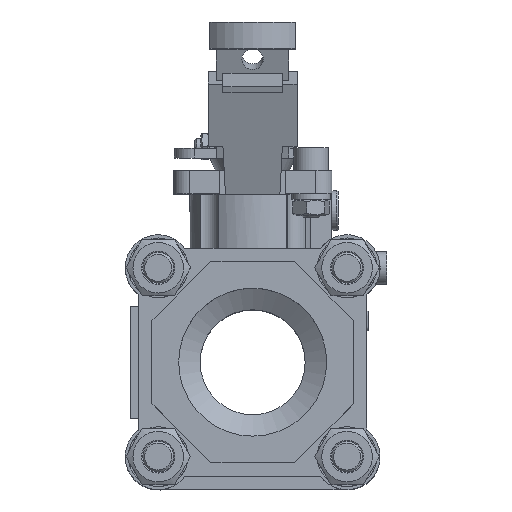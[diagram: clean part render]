
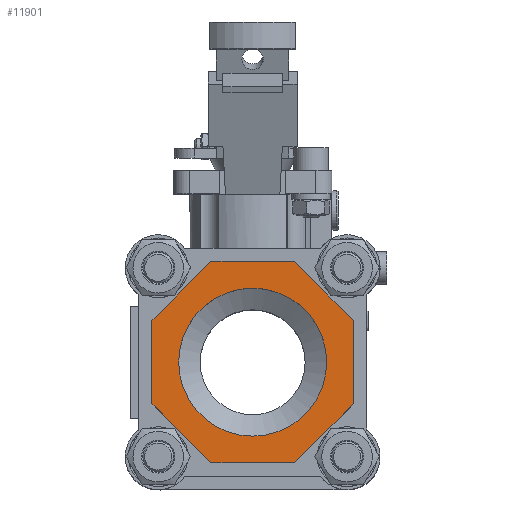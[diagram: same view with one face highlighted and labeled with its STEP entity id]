
A CAD part, top view. The second image highlights one B-rep face of the part: STEP entity #11901.
In plain terms, the highlighted planar face has unit normal (0, 0, 1).
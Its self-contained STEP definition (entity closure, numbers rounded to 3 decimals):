
#367=FACE_BOUND('',#2045,.T.);
#596=PLANE('',#12754);
#1339=FACE_OUTER_BOUND('',#2044,.T.);
#2044=EDGE_LOOP('',(#9370,#9371,#9372,#9373,#9374,#9375,#9376,#9377));
#2045=EDGE_LOOP('',(#9378,#9379));
#2703=CIRCLE('',#12755,22.423);
#2704=CIRCLE('',#12756,22.423);
#3490=LINE('',#18953,#4533);
#3492=LINE('',#18957,#4535);
#3494=LINE('',#18961,#4537);
#3496=LINE('',#18965,#4539);
#3499=LINE('',#18970,#4542);
#3501=LINE('',#18974,#4544);
#3503=LINE('',#18978,#4546);
#3504=LINE('',#18980,#4547);
#4533=VECTOR('',#14785,10.);
#4535=VECTOR('',#14789,10.);
#4537=VECTOR('',#14793,10.);
#4539=VECTOR('',#14797,10.);
#4542=VECTOR('',#14802,10.);
#4544=VECTOR('',#14806,10.);
#4546=VECTOR('',#14810,10.);
#4547=VECTOR('',#14813,10.);
#5625=VERTEX_POINT('',#18950);
#5626=VERTEX_POINT('',#18952);
#5627=VERTEX_POINT('',#18956);
#5628=VERTEX_POINT('',#18960);
#5629=VERTEX_POINT('',#18964);
#5630=VERTEX_POINT('',#18968);
#5631=VERTEX_POINT('',#18972);
#5632=VERTEX_POINT('',#18976);
#5633=VERTEX_POINT('',#18982);
#5634=VERTEX_POINT('',#18983);
#6988=EDGE_CURVE('',#5626,#5625,#3490,.T.);
#6990=EDGE_CURVE('',#5627,#5626,#3492,.T.);
#6992=EDGE_CURVE('',#5628,#5627,#3494,.T.);
#6994=EDGE_CURVE('',#5629,#5628,#3496,.T.);
#6997=EDGE_CURVE('',#5625,#5630,#3499,.T.);
#6999=EDGE_CURVE('',#5630,#5631,#3501,.T.);
#7001=EDGE_CURVE('',#5631,#5632,#3503,.T.);
#7002=EDGE_CURVE('',#5632,#5629,#3504,.T.);
#7003=EDGE_CURVE('',#5633,#5634,#2703,.T.);
#7004=EDGE_CURVE('',#5634,#5633,#2704,.T.);
#9370=ORIENTED_EDGE('',*,*,#6988,.T.);
#9371=ORIENTED_EDGE('',*,*,#6997,.T.);
#9372=ORIENTED_EDGE('',*,*,#6999,.T.);
#9373=ORIENTED_EDGE('',*,*,#7001,.T.);
#9374=ORIENTED_EDGE('',*,*,#7002,.T.);
#9375=ORIENTED_EDGE('',*,*,#6994,.T.);
#9376=ORIENTED_EDGE('',*,*,#6992,.T.);
#9377=ORIENTED_EDGE('',*,*,#6990,.T.);
#9378=ORIENTED_EDGE('',*,*,#7003,.F.);
#9379=ORIENTED_EDGE('',*,*,#7004,.F.);
#11901=ADVANCED_FACE('',(#1339,#367),#596,.T.);
#12754=AXIS2_PLACEMENT_3D('',#18981,#14814,#14815);
#12755=AXIS2_PLACEMENT_3D('',#18984,#14816,#14817);
#12756=AXIS2_PLACEMENT_3D('',#18985,#14818,#14819);
#14785=DIRECTION('',(0.707,0.707,0.));
#14789=DIRECTION('',(1.,0.,0.));
#14793=DIRECTION('',(0.707,-0.707,0.));
#14797=DIRECTION('',(0.,-1.,0.));
#14802=DIRECTION('',(0.,1.,0.));
#14806=DIRECTION('',(-0.707,0.707,0.));
#14810=DIRECTION('',(-1.,0.,0.));
#14813=DIRECTION('',(-0.707,-0.707,0.));
#14814=DIRECTION('center_axis',(0.,0.,
1.));
#14815=DIRECTION('ref_axis',(-1.,0.,0.));
#14816=DIRECTION('center_axis',(0.,0.,
1.));
#14817=DIRECTION('ref_axis',(1.,0.,0.));
#14818=DIRECTION('center_axis',(0.,0.,
1.));
#14819=DIRECTION('ref_axis',(1.,0.,0.));
#18950=CARTESIAN_POINT('',(40.592,-32.998,59.));
#18952=CARTESIAN_POINT('',(22.725,-50.864,59.));
#18953=CARTESIAN_POINT('',(30.519,-43.07,59.));
#18956=CARTESIAN_POINT('',(-2.542,-50.864,59.));
#18957=CARTESIAN_POINT('',(16.408,-50.864,59.));
#18960=CARTESIAN_POINT('',(-20.408,-32.998,59.));
#18961=CARTESIAN_POINT('',(-1.403,-52.003,59.));
#18964=CARTESIAN_POINT('',(-20.408,-7.731,59.));
#18965=CARTESIAN_POINT('',(-20.408,-37.892,59.));
#18968=CARTESIAN_POINT('',(40.592,-7.731,59.));
#18970=CARTESIAN_POINT('',(40.592,-25.259,59.));
#18972=CARTESIAN_POINT('',(22.725,10.136,59.));
#18974=CARTESIAN_POINT('',(32.797,0.063,59.));
#18976=CARTESIAN_POINT('',(-2.542,10.136,59.));
#18978=CARTESIAN_POINT('',(3.775,10.136,59.));
#18980=CARTESIAN_POINT('',(-21.547,-8.87,59.));
#18981=CARTESIAN_POINT('Origin',(10.092,-42.787,59.));
#18982=CARTESIAN_POINT('',(10.092,-42.787,59.));
#18983=CARTESIAN_POINT('',(10.092,2.058,59.));
#18984=CARTESIAN_POINT('Origin',(10.092,-20.364,59.));
#18985=CARTESIAN_POINT('Origin',(10.092,-20.364,59.));
